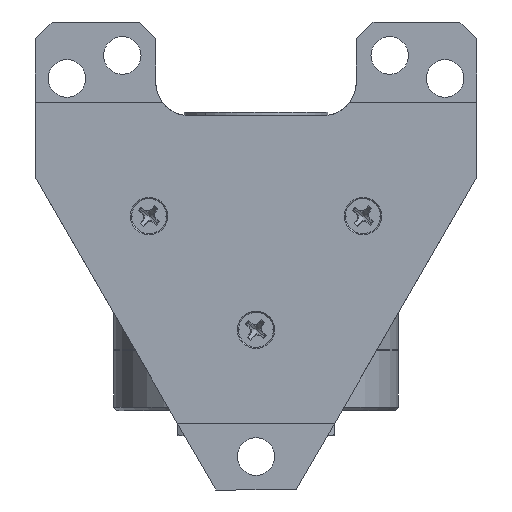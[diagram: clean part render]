
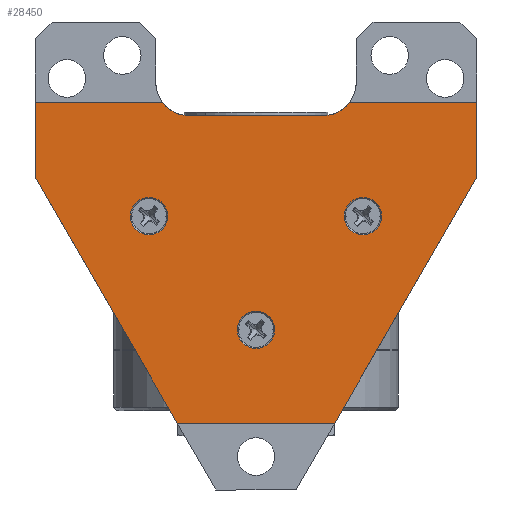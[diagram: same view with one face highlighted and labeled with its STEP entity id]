
A CAD part, front view. The second image highlights one B-rep face of the part: STEP entity #28450.
In plain terms, the highlighted planar face has unit normal (0, -1, 0) as drawn and (0, 0, 1) by its records, which use the part's own axes.
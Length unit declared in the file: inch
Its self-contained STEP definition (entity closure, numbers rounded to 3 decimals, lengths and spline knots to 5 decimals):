
#6462 = CARTESIAN_POINT ( 'NONE',  ( 0.5, 2.052, 0.3 ) ) ;
#6463 = DIRECTION ( 'NONE',  ( 0., 0., 1. ) ) ;
#6464 = DIRECTION ( 'NONE',  ( -1., 0., 0. ) ) ;
#8496 = CARTESIAN_POINT ( 'NONE',  ( -0.5, 2.052, 0.3 ) ) ;
#8497 = DIRECTION ( 'NONE',  ( 0., 0., 1. ) ) ;
#8499 = DIRECTION ( 'NONE',  ( -1., 0., 0. ) ) ;
#8563 = CARTESIAN_POINT ( 'NONE',  ( -0.8, 1.05, 0.3 ) ) ;
#8564 = DIRECTION ( 'NONE',  ( 0., 0., 1. ) ) ;
#8565 = DIRECTION ( 'NONE',  ( 1., 0., 0. ) ) ;
#8578 = LINE ( 'NONE', #8580, #23523 ) ;
#8580 = CARTESIAN_POINT ( 'NONE',  ( -1.65, 1.902, 0.3 ) ) ;
#8581 = DIRECTION ( 'NONE',  ( 0., 1., 0. ) ) ;
#8582 = LINE ( 'NONE', #8583, #23524 ) ;
#8583 = CARTESIAN_POINT ( 'NONE',  ( -1.65, 1.34027, 0.3 ) ) ;
#8584 = DIRECTION ( 'NONE',  ( -0.5, 0.866, 0. ) ) ;
#8611 = LINE ( 'NONE', #8619, #23537 ) ;
#8619 = CARTESIAN_POINT ( 'NONE',  ( 1.65, 1.902, 0.3 ) ) ;
#8621 = DIRECTION ( 'NONE',  ( 1., 0., 0. ) ) ;
#8754 = CARTESIAN_POINT ( 'NONE',  ( 0.58868, -0.498, 0.3 ) ) ;
#8755 = LINE ( 'NONE', #8754, #23591 ) ;
#8774 = DIRECTION ( 'NONE',  ( -0.5, -0.866, 0. ) ) ;
#10118 = AXIS2_PLACEMENT_3D ( 'NONE', #26515, #26516, #26517 ) ;
#10119 = CIRCLE ( 'NONE', #10122, 0.1395 ) ;
#10122 = AXIS2_PLACEMENT_3D ( 'NONE', #26523, #26524, #26525 ) ;
#10124 = VECTOR ( 'NONE', #26526, 39.37008 ) ;
#10147 = VECTOR ( 'NONE', #26585, 39.37008 ) ;
#11728 = AXIS2_PLACEMENT_3D ( 'NONE', #6462, #6463, #6464 ) ;
#11802 = CIRCLE ( 'NONE', #11728, 0.25 ) ;
#12207 = EDGE_CURVE ( 'NONE', #19571, #19569, #11802, .T. ) ;
#14100 = DIRECTION ( 'NONE',  ( 0., 0., -1. ) ) ;
#14101 = FACE_BOUND ( 'NONE', #34047, .T. ) ;
#14104 = CARTESIAN_POINT ( 'NONE',  ( -1.65, -0.498, 0.3 ) ) ;
#14105 = FACE_BOUND ( 'NONE', #34062, .T. ) ;
#14107 = FACE_BOUND ( 'NONE', #34052, .T. ) ;
#14108 = FACE_OUTER_BOUND ( 'NONE', #34045, .T. ) ;
#14109 = PLANE ( 'NONE',  #25620 ) ;
#14110 = DIRECTION ( 'NONE',  ( -1., 0., 0. ) ) ;
#17924 = CARTESIAN_POINT ( 'NONE',  ( 0.1395, 0.2, 0.3 ) ) ;
#17965 = CARTESIAN_POINT ( 'NONE',  ( -0.1395, 0.2, 0.3 ) ) ;
#17984 = CARTESIAN_POINT ( 'NONE',  ( -0.5, 1.802, 0.3 ) ) ;
#18018 = CARTESIAN_POINT ( 'NONE',  ( -0.58868, -0.498, 0.3 ) ) ;
#19522 = VERTEX_POINT ( 'NONE', #32384 ) ;
#19527 = VERTEX_POINT ( 'NONE', #32393 ) ;
#19539 = VERTEX_POINT ( 'NONE', #32414 ) ;
#19548 = VERTEX_POINT ( 'NONE', #32429 ) ;
#19569 = VERTEX_POINT ( 'NONE', #32461 ) ;
#19570 = VERTEX_POINT ( 'NONE', #32462 ) ;
#19571 = VERTEX_POINT ( 'NONE', #32463 ) ;
#19586 = VERTEX_POINT ( 'NONE', #32478 ) ;
#19593 = VERTEX_POINT ( 'NONE', #32485 ) ;
#19600 = VERTEX_POINT ( 'NONE', #32492 ) ;
#19603 = VERTEX_POINT ( 'NONE', #32495 ) ;
#19612 = VERTEX_POINT ( 'NONE', #32504 ) ;
#23497 = CIRCLE ( 'NONE', #23498, 0.25 ) ;
#23498 = AXIS2_PLACEMENT_3D ( 'NONE', #8496, #8497, #8499 ) ;
#23514 = CIRCLE ( 'NONE', #23518, 0.1395 ) ;
#23518 = AXIS2_PLACEMENT_3D ( 'NONE', #8563, #8564, #8565 ) ;
#23523 = VECTOR ( 'NONE', #8581, 39.37008 ) ;
#23524 = VECTOR ( 'NONE', #8584, 39.37008 ) ;
#23537 = VECTOR ( 'NONE', #8621, 39.37008 ) ;
#23591 = VECTOR ( 'NONE', #8774, 39.37008 ) ;
#23629 = CIRCLE ( 'NONE', #23631, 0.1395 ) ;
#23631 = AXIS2_PLACEMENT_3D ( 'NONE', #26197, #26198, #26199 ) ;
#23648 = CIRCLE ( 'NONE', #23651, 0.1395 ) ;
#23651 = AXIS2_PLACEMENT_3D ( 'NONE', #26286, #26287, #26288 ) ;
#23662 = VECTOR ( 'NONE', #26316, 39.37008 ) ;
#23729 = VECTOR ( 'NONE', #26472, 39.37008 ) ;
#23736 = CIRCLE ( 'NONE', #23739, 0.1395 ) ;
#23739 = AXIS2_PLACEMENT_3D ( 'NONE', #26487, #26488, #26489 ) ;
#23754 = CIRCLE ( 'NONE', #10118, 0.1395 ) ;
#23999 = VERTEX_POINT ( 'NONE', #17924 ) ;
#24024 = VERTEX_POINT ( 'NONE', #17965 ) ;
#24036 = VERTEX_POINT ( 'NONE', #17984 ) ;
#24056 = VERTEX_POINT ( 'NONE', #18018 ) ;
#25620 = AXIS2_PLACEMENT_3D ( 'NONE', #14104, #14100, #14110 ) ;
#26197 = CARTESIAN_POINT ( 'NONE',  ( 0.8, 1.05, 0.3 ) ) ;
#26198 = DIRECTION ( 'NONE',  ( 0., 0., 1. ) ) ;
#26199 = DIRECTION ( 'NONE',  ( 1., 0., 0. ) ) ;
#26286 = CARTESIAN_POINT ( 'NONE',  ( 0.8, 1.05, 0.3 ) ) ;
#26287 = DIRECTION ( 'NONE',  ( 0., 0., 1. ) ) ;
#26288 = DIRECTION ( 'NONE',  ( 1., 0., 0. ) ) ;
#26299 = LINE ( 'NONE', #26300, #23662 ) ;
#26300 = CARTESIAN_POINT ( 'NONE',  ( 1.65, 1.902, 0.3 ) ) ;
#26316 = DIRECTION ( 'NONE',  ( 1., 0., 0. ) ) ;
#26470 = LINE ( 'NONE', #26471, #23729 ) ;
#26471 = CARTESIAN_POINT ( 'NONE',  ( 1.65, 1.902, 0.3 ) ) ;
#26472 = DIRECTION ( 'NONE',  ( 0., -1., 0. ) ) ;
#26487 = CARTESIAN_POINT ( 'NONE',  ( 0., 0.2, 0.3 ) ) ;
#26488 = DIRECTION ( 'NONE',  ( 0., 0., 1. ) ) ;
#26489 = DIRECTION ( 'NONE',  ( 1., 0., 0. ) ) ;
#26515 = CARTESIAN_POINT ( 'NONE',  ( 0., 0.2, 0.3 ) ) ;
#26516 = DIRECTION ( 'NONE',  ( 0., 0., 1. ) ) ;
#26517 = DIRECTION ( 'NONE',  ( 1., 0., 0. ) ) ;
#26518 = CARTESIAN_POINT ( 'NONE',  ( -0.75, 1.802, 0.3 ) ) ;
#26522 = LINE ( 'NONE', #26518, #10124 ) ;
#26523 = CARTESIAN_POINT ( 'NONE',  ( -0.8, 1.05, 0.3 ) ) ;
#26524 = DIRECTION ( 'NONE',  ( 0., 0., 1. ) ) ;
#26525 = DIRECTION ( 'NONE',  ( 1., 0., 0. ) ) ;
#26526 = DIRECTION ( 'NONE',  ( 1., 0., 0. ) ) ;
#26574 = LINE ( 'NONE', #26575, #10147 ) ;
#26575 = CARTESIAN_POINT ( 'NONE',  ( 0.58868, -0.498, 0.3 ) ) ;
#26585 = DIRECTION ( 'NONE',  ( -1., 0., 0. ) ) ;
#28450 = ADVANCED_FACE ( 'NONE', ( #14101, #14105, #14107, #14108 ), #14109, .F. ) ;
#29727 = ORIENTED_EDGE ( 'NONE', *, *, #32063, .F. ) ;
#29729 = ORIENTED_EDGE ( 'NONE', *, *, #32260, .F. ) ;
#29760 = ORIENTED_EDGE ( 'NONE', *, *, #32448, .F. ) ;
#29763 = ORIENTED_EDGE ( 'NONE', *, *, #32065, .F. ) ;
#29766 = ORIENTED_EDGE ( 'NONE', *, *, #32156, .F. ) ;
#29787 = ORIENTED_EDGE ( 'NONE', *, *, #32402, .F. ) ;
#29805 = ORIENTED_EDGE ( 'NONE', *, *, #32374, .F. ) ;
#29811 = ORIENTED_EDGE ( 'NONE', *, *, #32210, .F. ) ;
#29814 = ORIENTED_EDGE ( 'NONE', *, *, #32055, .F. ) ;
#29816 = ORIENTED_EDGE ( 'NONE', *, *, #32243, .F. ) ;
#30161 = ORIENTED_EDGE ( 'NONE', *, *, #32397, .F. ) ;
#30414 = ORIENTED_EDGE ( 'NONE', *, *, #32083, .F. ) ;
#30416 = ORIENTED_EDGE ( 'NONE', *, *, #32021, .F. ) ;
#30418 = ORIENTED_EDGE ( 'NONE', *, *, #32404, .F. ) ;
#30424 = ORIENTED_EDGE ( 'NONE', *, *, #12207, .F. ) ;
#30426 = ORIENTED_EDGE ( 'NONE', *, *, #32362, .F. ) ;
#32021 = EDGE_CURVE ( 'NONE', #19570, #24036, #23497, .T. ) ;
#32055 = EDGE_CURVE ( 'NONE', #19548, #19522, #23514, .T. ) ;
#32063 = EDGE_CURVE ( 'NONE', #19539, #19527, #8578, .T. ) ;
#32065 = EDGE_CURVE ( 'NONE', #24056, #19539, #8582, .T. ) ;
#32083 = EDGE_CURVE ( 'NONE', #19569, #19593, #8611, .T. ) ;
#32156 = EDGE_CURVE ( 'NONE', #19603, #19600, #8755, .T. ) ;
#32210 = EDGE_CURVE ( 'NONE', #19586, #19612, #23629, .T. ) ;
#32243 = EDGE_CURVE ( 'NONE', #19612, #19586, #23648, .T. ) ;
#32260 = EDGE_CURVE ( 'NONE', #19527, #19570, #26299, .T. ) ;
#32362 = EDGE_CURVE ( 'NONE', #19593, #19603, #26470, .T. ) ;
#32374 = EDGE_CURVE ( 'NONE', #23999, #24024, #23736, .T. ) ;
#32384 = CARTESIAN_POINT ( 'NONE',  ( -0.6605, 1.05, 0.3 ) ) ;
#32393 = CARTESIAN_POINT ( 'NONE',  ( -1.65, 1.902, 0.3 ) ) ;
#32397 = EDGE_CURVE ( 'NONE', #24024, #23999, #23754, .T. ) ;
#32402 = EDGE_CURVE ( 'NONE', #19522, #19548, #10119, .T. ) ;
#32404 = EDGE_CURVE ( 'NONE', #24036, #19571, #26522, .T. ) ;
#32414 = CARTESIAN_POINT ( 'NONE',  ( -1.65, 1.34027, 0.3 ) ) ;
#32429 = CARTESIAN_POINT ( 'NONE',  ( -0.9395, 1.05, 0.3 ) ) ;
#32448 = EDGE_CURVE ( 'NONE', #19600, #24056, #26574, .T. ) ;
#32461 = CARTESIAN_POINT ( 'NONE',  ( 0.7, 1.902, 0.3 ) ) ;
#32462 = CARTESIAN_POINT ( 'NONE',  ( -0.7, 1.902, 0.3 ) ) ;
#32463 = CARTESIAN_POINT ( 'NONE',  ( 0.5, 1.802, 0.3 ) ) ;
#32478 = CARTESIAN_POINT ( 'NONE',  ( 0.9395, 1.05, 0.3 ) ) ;
#32485 = CARTESIAN_POINT ( 'NONE',  ( 1.65, 1.902, 0.3 ) ) ;
#32492 = CARTESIAN_POINT ( 'NONE',  ( 0.58868, -0.498, 0.3 ) ) ;
#32495 = CARTESIAN_POINT ( 'NONE',  ( 1.65, 1.34027, 0.3 ) ) ;
#32504 = CARTESIAN_POINT ( 'NONE',  ( 0.6605, 1.05, 0.3 ) ) ;
#34045 = EDGE_LOOP ( 'NONE', ( #29729, #29727, #29763, #29760, #29766, #30426, #30414, #30424, #30418, #30416 ) ) ;
#34047 = EDGE_LOOP ( 'NONE', ( #29805, #30161 ) ) ;
#34052 = EDGE_LOOP ( 'NONE', ( #29787, #29814 ) ) ;
#34062 = EDGE_LOOP ( 'NONE', ( #29811, #29816 ) ) ;
